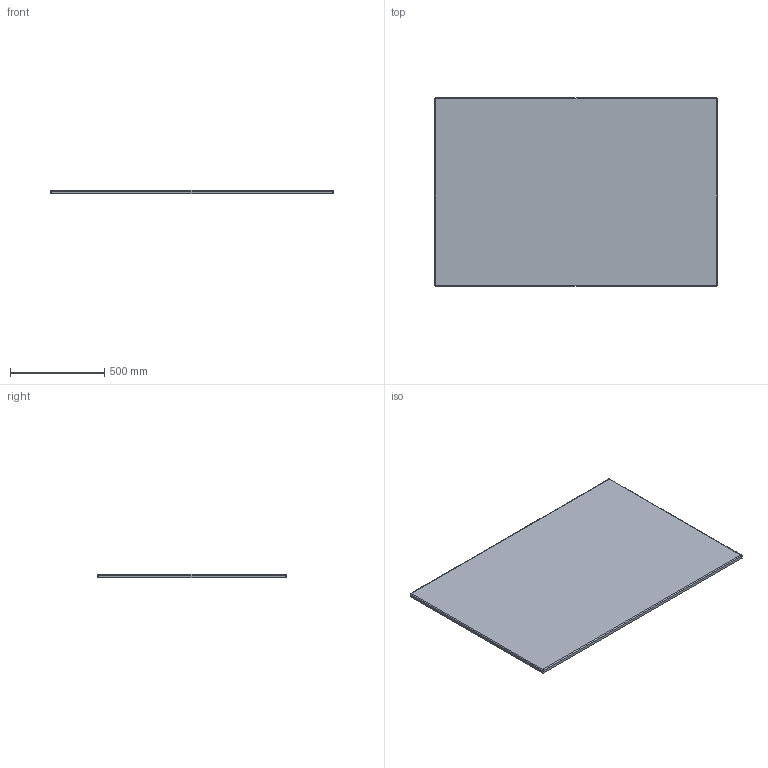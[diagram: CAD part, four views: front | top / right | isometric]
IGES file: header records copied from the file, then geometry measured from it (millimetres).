
Start section: SolidWorks IGES file using NURBS representation for surfaces
Global section: file name: W:\01-VICCARBE\PRODUCTOS\45-TRESTLE\04-MODELADOS (PLANOS)\WEB\IGES\viccarbe_trestle_backrest_end.IGS; native system: SolidWorks 2013; preprocessor: SolidWorks 2013; author: Usuario; date: 140917.174420; units: millimetre
Bounding box: 1500 x 1000 x 20 mm (x, y, z)
Surface area: 3089148.8 mm2 (no closed solid volume)
Topology: 0 solids, 0 shells, 18 faces, 76 edges, 72 vertices
Faces by surface type: bspline 18
